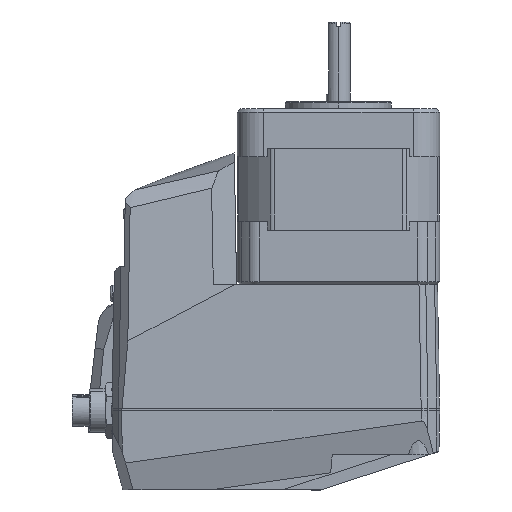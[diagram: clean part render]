
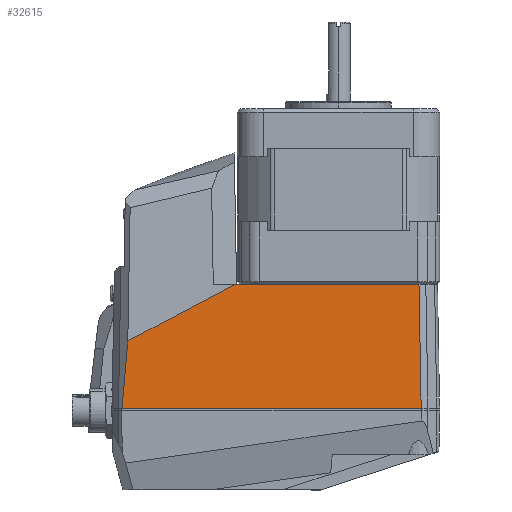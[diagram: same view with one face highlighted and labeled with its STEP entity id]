
A CAD part, left-side view. The second image highlights one B-rep face of the part: STEP entity #32615.
In plain terms, the highlighted planar face has unit normal (-1, 0, 0.018) as drawn and (1, 0, -0.017) by its records, which use the part's own axes.
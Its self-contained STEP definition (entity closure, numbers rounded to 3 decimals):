
#5453 = VECTOR ( 'NONE', #104239, 1000. ) ;
#9888 = ORIENTED_EDGE ( 'NONE', *, *, #12006, .T. ) ;
#10345 = ORIENTED_EDGE ( 'NONE', *, *, #66240, .T. ) ;
#11263 = EDGE_CURVE ( 'NONE', #55660, #107887, #92770, .T. ) ;
#12006 = EDGE_CURVE ( 'NONE', #107887, #63593, #82052, .T. ) ;
#12519 = ORIENTED_EDGE ( 'NONE', *, *, #11263, .T. ) ;
#12587 = EDGE_LOOP ( 'NONE', ( #87989, #10345, #115720, #85349, #12519, #9888 ) ) ;
#14959 = EDGE_CURVE ( 'NONE', #113259, #61527, #87524, .T. ) ;
#16925 = CARTESIAN_POINT ( 'NONE',  ( -27.765, 11.025, 2.177 ) ) ;
#16976 = CARTESIAN_POINT ( 'NONE',  ( -27.765, -1.594, 2.177 ) ) ;
#18193 = CARTESIAN_POINT ( 'NONE',  ( -27.765, 36.262, 2.177 ) ) ;
#19302 = VECTOR ( 'NONE', #52607, 1000. ) ;
#22738 = EDGE_CURVE ( 'NONE', #61527, #55660, #65612, .T. ) ;
#32615 = ADVANCED_FACE ( 'NONE', ( #86462 ), #114891, .T. ) ;
#34560 = CARTESIAN_POINT ( 'NONE',  ( -27.765, -1.594, 2.177 ) ) ;
#40672 = CARTESIAN_POINT ( 'NONE',  ( -27.765, 36.445, 2.177 ) ) ;
#43401 = CARTESIAN_POINT ( 'NONE',  ( -27.765, 36.262, 2.177 ) ) ;
#44191 = CARTESIAN_POINT ( 'NONE',  ( -27.765, 23.643, 2.177 ) ) ;
#44843 = CARTESIAN_POINT ( 'NONE',  ( -27.559, 58.831, 13.974 ) ) ;
#46020 = EDGE_CURVE ( 'NONE', #49128, #63593, #65658, .T. ) ;
#49128 = VERTEX_POINT ( 'NONE', #63118 ) ;
#51239 = DIRECTION ( 'NONE',  ( -0.017, 0.017, -1. ) ) ;
#52607 = DIRECTION ( 'NONE',  ( 0., -1., 0. ) ) ;
#55660 = VERTEX_POINT ( 'NONE', #18193 ) ;
#57631 = VECTOR ( 'NONE', #116905, 1000. ) ;
#57697 = CARTESIAN_POINT ( 'NONE',  ( -27.888, 57.21, -4.858 ) ) ;
#59676 = CARTESIAN_POINT ( 'NONE',  ( -27.765, -1.594, 2.192 ) ) ;
#61098 = CARTESIAN_POINT ( 'NONE',  ( -27.517, -1.942, 16.377 ) ) ;
#61527 = VERTEX_POINT ( 'NONE', #16976 ) ;
#63118 = CARTESIAN_POINT ( 'NONE',  ( -27.316, 60.03, 27.895 ) ) ;
#63593 = VERTEX_POINT ( 'NONE', #44843 ) ;
#65612 = B_SPLINE_CURVE_WITH_KNOTS ( 'NONE', 3,
 ( #34560, #16925, #44191, #43401 ),
 .UNSPECIFIED., .F., .F.,
 ( 4, 4 ),
 ( 0.092, 1. ),
 .UNSPECIFIED. ) ;
#65658 = LINE ( 'NONE', #57697, #5453 ) ;
#66240 = EDGE_CURVE ( 'NONE', #49128, #113259, #95391, .T. ) ;
#67725 = AXIS2_PLACEMENT_3D ( 'NONE', #61098, #70370, #79571 ) ;
#70370 = DIRECTION ( 'NONE',  ( 1., 0., -0.017 ) ) ;
#77382 = CARTESIAN_POINT ( 'NONE',  ( -27.765, -5.423, 2.177 ) ) ;
#79571 = DIRECTION ( 'NONE',  ( -0.017, 0., -1. ) ) ;
#82052 = LINE ( 'NONE', #108844, #57631 ) ;
#85349 = ORIENTED_EDGE ( 'NONE', *, *, #22738, .T. ) ;
#86462 = FACE_OUTER_BOUND ( 'NONE', #12587, .T. ) ;
#86644 = DIRECTION ( 'NONE',  ( 0., 1., 0. ) ) ;
#87524 = LINE ( 'NONE', #59676, #104655 ) ;
#87989 = ORIENTED_EDGE ( 'NONE', *, *, #46020, .F. ) ;
#89543 = CARTESIAN_POINT ( 'NONE',  ( -27.316, -1.942, 27.895 ) ) ;
#92770 = LINE ( 'NONE', #77382, #114203 ) ;
#95391 = LINE ( 'NONE', #89543, #19302 ) ;
#96474 = CARTESIAN_POINT ( 'NONE',  ( -27.316, -2.043, 27.895 ) ) ;
#104239 = DIRECTION ( 'NONE',  ( -0.017, -0.086, -0.996 ) ) ;
#104655 = VECTOR ( 'NONE', #51239, 1000. ) ;
#107887 = VERTEX_POINT ( 'NONE', #40672 ) ;
#108844 = CARTESIAN_POINT ( 'NONE',  ( -28.036, 7.052, -13.312 ) ) ;
#113259 = VERTEX_POINT ( 'NONE', #96474 ) ;
#114203 = VECTOR ( 'NONE', #86644, 1000. ) ;
#114891 = PLANE ( 'NONE',  #67725 ) ;
#115720 = ORIENTED_EDGE ( 'NONE', *, *, #14959, .T. ) ;
#116905 = DIRECTION ( 'NONE',  ( 0.008, 0.885, 0.466 ) ) ;
